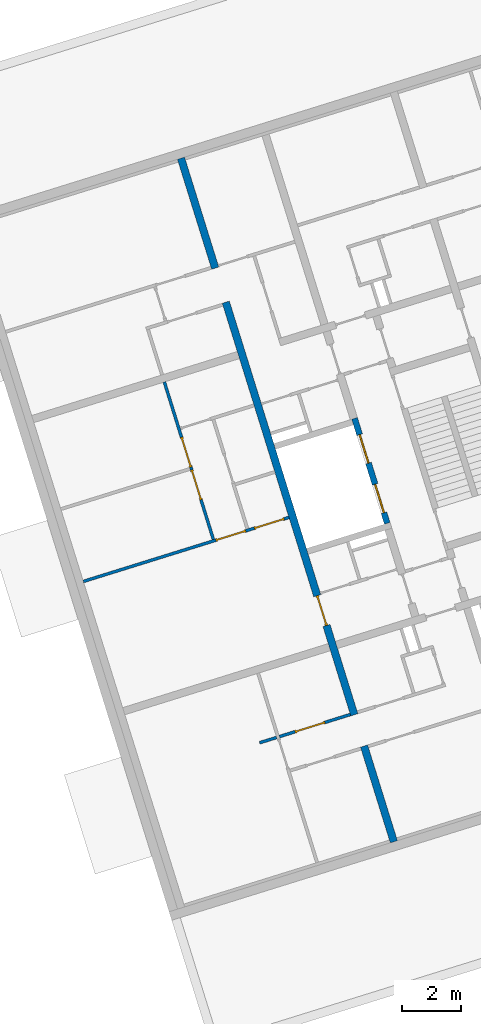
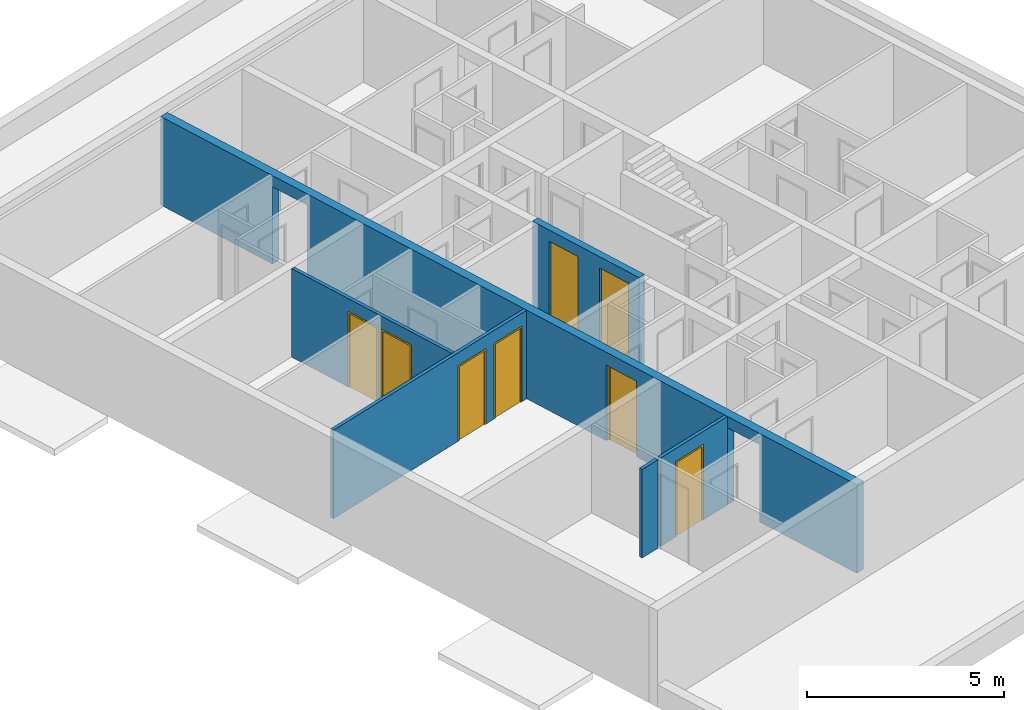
# One storey, part 8 of 9: 8 doors, 5 walls, 11 openings.
"""IFC4 building model written with IfcOpenShell, lengths in metres."""

from ifc_helpers import new_model, entity, si_unit, converted_unit, direction, frame, origin, place, context, subcontext, project, spatial, indexed_curve, outline, extrude, polygons, source, transform, mapped, material, constituent, constituent_set, type_object, type_shapes, element, fill, save


model = new_model("IFC4")

# Units and contexts
model_context = context("Model", 3, precision=1e-05, world=origin(), true_north=direction((6.12323399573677e-17, 1.0)))
body_context = subcontext(model_context, "Body", "Model", "MODEL_VIEW")
ifc_project = project(units=[si_unit("LENGTHUNIT", "METRE"), si_unit("AREAUNIT", "SQUARE_METRE"), si_unit("VOLUMEUNIT", "CUBIC_METRE"), converted_unit("PLANEANGLEUNIT", "DEGREE", entity("IfcPlaneAngleMeasure", 0.0174532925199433), si_unit("PLANEANGLEUNIT", "RADIAN"), dimensions=[0, 0, 0, 0, 0, 0, 0])], contexts=[model_context])

# Site, building, storey
site_placement = place(None, frame((13.1347999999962, 11.9886000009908, 0.0), z_axis=(0.0, 0.0, 1.0), x_axis=(0.954770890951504, 0.297342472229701, 0.0)))
site = spatial("IfcSite", under=ifc_project, at=site_placement, Name="Schiehaven", CompositionType="ELEMENT")
building_placement = place(site_placement, origin())
building = spatial("IfcBuilding", under=site, at=building_placement, Name="VORM huis", CompositionType="ELEMENT")
storey_placement = place(building_placement, frame((0.0, 0.0, 6.9)))
storey = spatial("IfcBuildingStorey", under=building, at=storey_placement, Name="02 tweede verdieping", CompositionType="ELEMENT", Elevation=6.9)

# Wall, openings, door
ifc_material_1 = material(Name="beton_gewapend_ihw", Category="Miscellaneous")
wall_type_1 = type_object("IfcWallType", Name="Basic Wall:28_WA_skelet_wand 250mm_gen", PredefinedType="STANDARD")
wall_1_placement = place(storey_placement, frame((12.5000000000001, 5.0, 0.0), z_axis=(0.0, 0.0, 1.0), x_axis=(0.0, 1.0, 0.0)))
wall_1 = element("IfcWall", 1, at=wall_1_placement, inside=storey, type_object=wall_type_1, material=ifc_material_1, Name="Constructieve wand", ObjectType="Wand", PredefinedType="NOTDEFINED", context=body_context, shape_type="Tessellation", body=[
    polygons([(8.67499999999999, -0.125, 2.34999999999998), (8.67499999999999, -0.125, 1.08286712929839e-15), (19.0250000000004, -0.124999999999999, 1.08286712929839e-15), (19.0250000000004, -0.124999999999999, 2.4), (20.2250000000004, -0.124999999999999, 2.4), (20.2250000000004, -0.124999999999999, 1.08286712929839e-15), (24.1, -0.125, 1.08286712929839e-15), (24.1, -0.125, 2.75), (7.025, -0.124999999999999, 2.75), (6.775, -0.125, 2.75), (0.0, -0.125, 2.75), (1.08286712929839e-15, -0.125, 1.08286712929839e-15), (3.37500000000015, -0.124999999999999, 1.08286712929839e-15), (3.37500000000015, -0.124999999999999, 2.4), (4.47500000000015, -0.125, 2.4), (4.47500000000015, -0.125, 1.08286712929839e-15), (6.775, -0.125, 0.0), (7.025, -0.124999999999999, 0.0), (7.62499999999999, -0.124999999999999, 1.08286712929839e-15), (7.62499999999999, -0.124999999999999, 2.34999999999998), (19.0250000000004, 0.125, 1.08286712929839e-15), (8.67499999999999, 0.125, 1.08286712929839e-15), (8.67499999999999, 0.125, 2.34999999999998), (7.62499999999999, 0.125, 2.34999999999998), (7.62499999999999, 0.125, 1.08286712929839e-15), (4.47500000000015, 0.124999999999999, 1.08286712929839e-15), (4.47500000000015, 0.124999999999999, 2.4), (3.37500000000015, 0.125000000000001, 2.4), (3.37500000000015, 0.125000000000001, 1.08286712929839e-15), (1.08286712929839e-15, 0.125, 1.08286712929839e-15), (0.0, 0.125, 2.75), (24.1, 0.124999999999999, 2.75), (24.1, 0.124999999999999, 1.08286712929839e-15), (20.2250000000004, 0.125, 1.08286712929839e-15), (20.2250000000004, 0.125, 2.4), (19.0250000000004, 0.125, 2.4)], [[[1, 2, 3, 4, 5, 6, 7, 8, 9, 10, 11, 12, 13, 14, 15, 16, 17, 18, 19, 20]], [[21, 22, 23, 24, 25, 26, 27, 28, 29, 30, 31, 32, 33, 34, 35, 36]], [[12, 30, 29, 13]], [[8, 7, 33, 32]], [[11, 10, 9, 8, 32, 31]], [[12, 11, 31, 30]], [[14, 28, 27, 15]], [[28, 14, 13, 29]], [[15, 27, 26, 16]], [[4, 36, 35, 5]], [[36, 4, 3, 21]], [[5, 35, 34, 6]], [[25, 24, 20, 19]], [[23, 22, 2, 1]], [[24, 23, 1, 20]], [[19, 18, 17, 16, 26, 25]], [[3, 2, 22, 21]], [[33, 7, 6, 34]]], closed=True),
])
opening_1_placement = place(wall_1_placement, origin())
element("IfcOpeningElement", 2, at=opening_1_placement, cuts=wall_1, Name="Constructieve wand", PredefinedType="OPENING", context=body_context, shape_type="SweptSolid", body=[
    extrude(outline(indexed_curve([(-1.2, -0.550000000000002), (1.2, -0.550000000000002), (1.2, 0.550000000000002), (-1.2, 0.550000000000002), (-1.2, -0.550000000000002)], self_intersect=False)), frame((3.92500000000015, -0.125, 1.2), z_axis=(0.0, 1.0, 0.0), x_axis=(0.0, 0.0, -1.0)), (0.0, 0.0, 1.0), 0.249999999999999),
])
opening_2_placement = place(wall_1_placement, origin())
element("IfcOpeningElement", 3, at=opening_2_placement, cuts=wall_1, Name="Constructieve wand", PredefinedType="OPENING", context=body_context, shape_type="SweptSolid", body=[
    extrude(outline(indexed_curve([(-1.2, -0.599999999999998), (1.2, -0.599999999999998), (1.2, 0.599999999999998), (-1.2, 0.599999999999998), (-1.2, -0.599999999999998)], self_intersect=False)), frame((19.6250000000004, -0.124999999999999, 1.2), z_axis=(0.0, 1.0, 0.0), x_axis=(0.0, 0.0, -1.0)), (0.0, 0.0, 1.0), 0.249999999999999),
])
opening_3_placement = place(wall_1_placement, frame((8.67499999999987, 0.124999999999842, 0.0)))
opening_3 = element("IfcOpeningElement", 4, at=opening_3_placement, cuts=wall_1, Name="Binnendeur", PredefinedType="OPENING", context=body_context, shape_type="SweptSolid", body=[
    extrude(outline(indexed_curve([(2.34999999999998, 1.05), (0.0, 1.05), (0.0, 1.08286712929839e-15), (2.34999999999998, 1.08286712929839e-15), (2.34999999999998, 1.05)], self_intersect=False)), frame((0.0, 0.0, 0.0), z_axis=(0.0, -1.0, 0.0), x_axis=(0.0, 0.0, 1.0)), (0.0, 0.0, 1.0), 0.25),
])
ifc_material_2 = material(Name="PD_a_binnenwandopeningen", Category="Miscellaneous")
ifc_constituent_1 = constituent(ifc_material_2, Name="PD_a_binnenwandopeningen", Category="Miscellaneous")
ifc_material_3 = material(Name="metaal_aluminium_ntb", Category="Miscellaneous")
ifc_constituent_2 = constituent(ifc_material_3, Name="metaal_aluminium_ntb", Category="Miscellaneous")
ifc_constituent_set_1 = constituent_set(constituents=[ifc_constituent_1, ifc_constituent_2])
door_type_1 = type_object("IfcDoorType", Name="32_DO_binnendeur enkel:binnendeur", OperationType="REVOLVING", PredefinedType="DOOR")
shared_shape_1 = source(origin(), body_context, "Body", "SweptSolid", [
    extrude(outline(indexed_curve([(-1.16249999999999, -0.525000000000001), (1.18749999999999, -0.525), (1.18749999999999, 0.525000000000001), (-1.16249999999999, 0.525000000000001), (-1.16249999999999, 0.475), (1.13749999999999, 0.475), (1.13749999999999, -0.475), (-1.16249999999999, -0.475), (-1.16249999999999, -0.525000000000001)], self_intersect=False)), frame((0.525000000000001, 0.0749999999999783, 1.16249999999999), z_axis=(0.0, 1.0, 0.0), x_axis=(0.0, 0.0, 1.0)), (0.0, 0.0, 1.0), 0.1),
    extrude(outline(indexed_curve([(-0.025, -0.475), (0.025, -0.475), (0.025, 0.475), (-0.025, 0.475), (-0.025, -0.475)], self_intersect=False)), frame((0.525000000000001, 0.12499999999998, 0.0), z_axis=(0.0, 0.0, 1.0), x_axis=(0.0, 1.0, 0.0)), (0.0, 0.0, 1.0), 2.29999999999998),
])
door_1_placement = place(opening_3_placement, frame((0.0, 0.0, 0.0), z_axis=(0.0, 0.0, 1.0), x_axis=(-1.0, 0.0, 0.0)))
door_1 = element("IfcDoor", 5, at=door_1_placement, inside=storey, type_object=door_type_1, material=ifc_constituent_set_1, Name="Binnendeur", ObjectType="Deur", OperationType="REVOLVING", OverallHeight=2.34999999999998, OverallWidth=1.05, PredefinedType="DOOR", context=body_context, shape_type="MappedRepresentation", body=[
    mapped(shared_shape_1, transform((0.0, 0.0, 0.0), scale=1.0)),
])
fill(opening_3, door_1)

# Wall, openings, doors
ifc_material_4 = material(Name="beton_gewapend_prefab-element", Category="Miscellaneous")
wall_type_2 = type_object("IfcWallType", Name="Basic Wall:28_WA_skelet_wand 200mm_gen", PredefinedType="STANDARD")
wall_2_placement = place(storey_placement, frame((15.4750000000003, 15.3, 0.0), z_axis=(0.0, 0.0, 1.0), x_axis=(0.0, 1.0, 0.0)))
wall_2 = element("IfcWall", 6, at=wall_2_placement, inside=storey, type_object=wall_type_2, material=ifc_material_4, Name="Constructieve wand", ObjectType="Wand", PredefinedType="NOTDEFINED", context=body_context, shape_type="Tessellation", body=[
    polygons([(3.7, -0.0999999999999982, 2.75), (2.16573425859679e-15, -0.0999999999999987, 2.75), (2.16573425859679e-15, -0.0999999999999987, 1.08286712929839e-15), (0.374999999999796, -0.0999999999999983, 1.08286712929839e-15), (0.374999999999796, -0.0999999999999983, 2.39999999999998), (1.3749999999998, -0.0999999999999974, 2.39999999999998), (1.3749999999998, -0.0999999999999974, 1.08286712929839e-15), (2.1249999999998, -0.100000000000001, 1.08286712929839e-15), (2.1249999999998, -0.100000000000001, 2.39999999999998), (3.1249999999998, -0.1, 2.39999999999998), (3.1249999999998, -0.1, 1.08286712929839e-15), (3.7, -0.0999999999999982, 1.08286712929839e-15), (2.16573425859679e-15, 0.100000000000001, 2.75), (3.5, 0.100000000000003, 2.75), (3.7, 0.0999999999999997, 2.75), (3.7, 0.0999999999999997, 1.08286712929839e-15), (3.5, 0.100000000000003, 0.0), (3.1249999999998, 0.100000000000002, 1.08286712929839e-15), (3.1249999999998, 0.100000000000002, 2.39999999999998), (2.1249999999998, 0.100000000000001, 2.39999999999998), (2.1249999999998, 0.100000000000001, 1.08286712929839e-15), (1.3749999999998, 0.100000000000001, 1.08286712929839e-15), (1.3749999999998, 0.100000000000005, 2.39999999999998), (0.3749999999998, 0.100000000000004, 2.39999999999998), (0.3749999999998, 0.100000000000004, 1.08286712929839e-15), (0.0, 0.100000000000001, 1.08286712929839e-15)], [[[1, 2, 3, 4, 5, 6, 7, 8, 9, 10, 11, 12]], [[13, 14, 15, 16, 17, 18, 19, 20, 21, 22, 23, 24, 25, 26]], [[4, 3, 26, 25]], [[2, 1, 15, 14, 13]], [[6, 23, 22, 7]], [[24, 5, 4, 25]], [[23, 6, 5, 24]], [[10, 19, 18, 11]], [[20, 9, 8, 21]], [[19, 10, 9, 20]], [[1, 12, 16, 15]], [[3, 2, 13, 26]], [[7, 22, 21, 8]], [[16, 12, 11, 18, 17]]], closed=True),
])
opening_4_placement = place(wall_2_placement, frame((-15.3, 15.4750000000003, 0.0), z_axis=(0.0, 0.0, 1.0), x_axis=(0.0, -1.0, 0.0)))
opening_4 = element("IfcOpeningElement", 7, at=opening_4_placement, cuts=wall_2, Name="Brandweerlift", PredefinedType="OPENING", context=body_context, shape_type="SweptSolid", body=[
    extrude(outline(indexed_curve([(-1.19999999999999, -0.499999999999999), (1.19999999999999, -0.499999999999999), (1.19999999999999, 0.500000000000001), (-1.19999999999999, 0.500000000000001), (-1.19999999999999, -0.499999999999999)], self_intersect=False)), frame((15.7436720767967, 16.1749999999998, 1.19999999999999), z_axis=(-1.0, 0.0, 0.0), x_axis=(0.0, 0.0, -1.0)), (0.0, 0.0, 1.0), 0.756310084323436),
])
opening_5_placement = place(wall_2_placement, frame((-15.3, 15.4750000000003, 0.0), z_axis=(0.0, 0.0, 1.0), x_axis=(0.0, -1.0, 0.0)))
opening_5 = element("IfcOpeningElement", 8, at=opening_5_placement, cuts=wall_2, Name="Brandweerlift", PredefinedType="OPENING", context=body_context, shape_type="SweptSolid", body=[
    extrude(outline(indexed_curve([(-1.19999999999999, -0.500000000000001), (1.19999999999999, -0.500000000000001), (1.19999999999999, 0.499999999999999), (-1.19999999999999, 0.499999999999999), (-1.19999999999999, -0.500000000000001)], self_intersect=False)), frame((15.7436720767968, 17.9249999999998, 1.19999999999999), z_axis=(-1.0, 0.0, 0.0), x_axis=(0.0, 0.0, -1.0)), (0.0, 0.0, 1.0), 0.756310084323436),
])
door_type_2 = type_object("IfcDoorType", Name="66_WI_liftdeur:brandweerlift - tweezijdig toegankelijk", OperationType="NOTDEFINED", PredefinedType="DOOR", material=ifc_material_3)
shared_shape_2 = source(origin(), body_context, "Body", "SweptSolid", [
    extrude(outline(indexed_curve([(-0.0250000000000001, -0.25), (0.0249999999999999, -0.25), (0.0250000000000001, 0.25), (-0.0249999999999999, 0.25), (-0.0250000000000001, -0.25)], self_intersect=False)), frame((0.250000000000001, 0.487638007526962, 0.0), z_axis=(0.0, 0.0, 1.0), x_axis=(0.0, 1.0, 0.0)), (0.0, 0.0, 1.0), 2.39999999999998),
    extrude(outline(indexed_curve([(-0.0250000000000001, -0.25), (0.0249999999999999, -0.25), (0.0250000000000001, 0.25), (-0.0249999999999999, 0.25), (-0.0250000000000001, -0.25)], self_intersect=False)), frame((0.750000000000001, 0.48763800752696, 0.0), z_axis=(0.0, 0.0, 1.0), x_axis=(0.0, 1.0, 0.0)), (0.0, 0.0, 1.0), 2.39999999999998),
])
type_shapes(door_type_2, [shared_shape_2])
door_2_placement = place(opening_4_placement, frame((14.9873619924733, 16.6749999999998, 0.0), z_axis=(0.0, 0.0, 1.0), x_axis=(0.0, -1.0, 0.0)))
door_2 = element("IfcDoor", 9, at=door_2_placement, inside=storey, type_object=door_type_2, material=ifc_material_3, Name="Brandweerlift", ObjectType="Transport", OperationType="NOTDEFINED", OverallHeight=2.39999999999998, OverallWidth=1.0, PredefinedType="DOOR", context=body_context, shape_type="MappedRepresentation", body=[
    mapped(shared_shape_2, transform((0.0, 0.0, 0.0), scale=1.0)),
])
fill(opening_4, door_2)
door_3_placement = place(opening_5_placement, frame((14.9873619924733, 18.4249999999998, 0.0), z_axis=(0.0, 0.0, 1.0), x_axis=(0.0, -1.0, 0.0)))
door_3 = element("IfcDoor", 10, at=door_3_placement, inside=storey, type_object=door_type_2, material=ifc_material_3, Name="Brandweerlift", ObjectType="Transport", OperationType="NOTDEFINED", OverallHeight=2.39999999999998, OverallWidth=1.0, PredefinedType="DOOR", context=body_context, shape_type="MappedRepresentation", body=[
    mapped(shared_shape_2, transform((0.0, 0.0, 0.0), scale=1.0)),
])
fill(opening_5, door_3)

# Wall, openings, door
ifc_material_5 = material(Name="ntb_ntb_ntb", Category="Miscellaneous")
wall_type_3 = type_object("IfcWallType", Name="Basic Wall:22_WA_afbouw_binnenwand 100mm_gen", PredefinedType="STANDARD")
wall_3_placement = place(storey_placement, frame((12.3750000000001, 9.52499999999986, 0.0), z_axis=(0.0, 0.0, 1.0), x_axis=(-1.0, 0.0, 0.0)))
wall_3 = element("IfcWall", 11, at=wall_3_placement, inside=storey, type_object=wall_type_3, material=ifc_material_5, Name="Binnenwand", ObjectType="Wand", PredefinedType="NOTDEFINED", context=body_context, shape_type="Tessellation", body=[
    polygons([(-2.22976765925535e-15, -0.0500000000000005, 2.75), (-2.22976765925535e-15, -0.0500000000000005, 1.08286712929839e-15), (0.899999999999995, -0.0500000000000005, 1.08286712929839e-15), (0.899999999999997, -0.0500000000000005, 2.34999999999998), (1.95, -0.0500000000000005, 2.34999999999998), (1.95, -0.0500000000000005, 1.08286712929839e-15), (2.50000000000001, -0.0500000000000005, 1.08286712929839e-15), (2.50000000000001, -0.0500000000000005, 2.75), (-2.09904175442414e-15, 0.0499999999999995, 1.08286712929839e-15), (0.899999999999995, 0.0499999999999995, 1.08286712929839e-15), (-2.09904175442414e-15, 0.0499999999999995, 2.75), (1.95, 0.0499999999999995, 2.34999999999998), (1.95, 0.0499999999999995, 1.08286712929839e-15), (0.899999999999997, 0.0499999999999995, 2.34999999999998), (2.50000000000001, 0.0499999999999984, 1.08286712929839e-15), (2.50000000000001, 0.0499999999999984, 2.75)], [[[1, 2, 3, 4, 5, 6, 7, 8]], [[2, 9, 10, 3]], [[2, 1, 11, 9]], [[6, 5, 12, 13]], [[4, 3, 10, 14]], [[5, 4, 14, 12]], [[8, 7, 15, 16]], [[11, 1, 8, 16]], [[6, 13, 15, 7]], [[9, 11, 16, 15, 13, 12, 14, 10]]], closed=True),
    polygons([(3.2, 0.0500000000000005, 2.75), (3.2, 0.0500000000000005, 1.08286712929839e-15), (2.60000000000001, 0.0499999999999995, 1.08286712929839e-15), (2.60000000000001, 0.0499999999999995, 2.75), (3.2, -0.0499999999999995, 2.75), (3.2, -0.0499999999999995, 1.08286712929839e-15), (2.60000000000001, -0.0500000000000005, 2.75), (2.60000000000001, -0.0500000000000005, 1.08286712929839e-15)], [[[1, 2, 3, 4]], [[5, 6, 2, 1]], [[5, 1, 4, 7]], [[8, 7, 4, 3]], [[2, 6, 8, 3]], [[6, 5, 7, 8]]], closed=True),
])
opening_6_placement = place(storey_placement, frame((12.3750000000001, 9.52499999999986, 0.0), z_axis=(0.0, 0.0, 1.0), x_axis=(-1.0, 0.0, 0.0)))
element("IfcOpeningElement", 12, at=opening_6_placement, cuts=wall_3, Name="Binnenwand:1", PredefinedType="OPENING", context=body_context, shape_type="SweptSolid", body=[
    extrude(outline(indexed_curve([(-1.375, -0.0499999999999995), (1.375, -0.0499999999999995), (1.375, 0.0500000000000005), (-1.375, 0.0500000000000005), (-1.375, -0.0499999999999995)], self_intersect=False)), frame((2.60000000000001, 0.0, 1.375), z_axis=(-1.0, 0.0, 0.0), x_axis=(0.0, 0.0, 1.0)), (0.0, 0.0, 1.0), 0.100000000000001),
])
opening_7_placement = place(wall_3_placement, frame((0.899999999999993, -0.0500000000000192, 0.0)))
opening_7 = element("IfcOpeningElement", 13, at=opening_7_placement, cuts=wall_3, Name="Binnendeur", PredefinedType="OPENING", context=body_context, shape_type="SweptSolid", body=[
    extrude(outline(indexed_curve([(2.34999999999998, 1.05), (0.0, 1.05), (0.0, 1.35358391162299e-15), (2.34999999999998, 1.35358391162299e-15), (2.34999999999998, 1.05)], self_intersect=False)), frame((0.0, 0.0, 0.0), z_axis=(0.0, 1.0, 0.0), x_axis=(0.0, 0.0, 1.0)), (0.0, 0.0, 1.0), 0.1),
])
ifc_constituent_3 = constituent(ifc_material_2, Name="PD_a_binnenwandopeningen", Category="Miscellaneous")
ifc_constituent_4 = constituent(ifc_material_3, Name="metaal_aluminium_ntb", Category="Miscellaneous")
ifc_constituent_set_2 = constituent_set(constituents=[ifc_constituent_3, ifc_constituent_4])
shared_shape_3 = source(origin(), body_context, "Body", "SweptSolid", [
    extrude(outline(indexed_curve([(-1.16249999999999, -0.525000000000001), (1.18749999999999, -0.525), (1.18749999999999, 0.525), (-1.16249999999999, 0.525), (-1.16249999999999, 0.475), (1.13749999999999, 0.475), (1.13749999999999, -0.475), (-1.16249999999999, -0.475), (-1.16249999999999, -0.525000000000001)], self_intersect=False)), frame((0.525000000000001, 0.0, 1.16249999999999), z_axis=(0.0, 1.0, 0.0), x_axis=(0.0, 0.0, 1.0)), (0.0, 0.0, 1.0), 0.1),
    extrude(outline(indexed_curve([(-0.025, -0.475), (0.025, -0.475), (0.025, 0.475), (-0.025, 0.475), (-0.025, -0.475)], self_intersect=False)), frame((0.525000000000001, 0.0499999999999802, 0.0), z_axis=(0.0, 0.0, 1.0), x_axis=(0.0, 1.0, 0.0)), (0.0, 0.0, 1.0), 2.29999999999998),
])
type_shapes(door_type_1, [shared_shape_3])
door_4_placement = place(opening_7_placement, origin())
door_4 = element("IfcDoor", 14, at=door_4_placement, inside=storey, type_object=door_type_1, material=ifc_constituent_set_2, Name="Binnendeur", ObjectType="Deur", OperationType="REVOLVING", OverallHeight=2.34999999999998, OverallWidth=1.05, PredefinedType="DOOR", context=body_context, shape_type="MappedRepresentation", body=[
    mapped(shared_shape_3, transform((0.0, 0.0, 0.0), scale=1.0)),
])
fill(opening_7, door_4)

# Wall, openings, doors
wall_4_placement = place(storey_placement, frame((12.3771642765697, 16.475, 0.0), z_axis=(0.0, 0.0, 1.0), x_axis=(-1.0, 0.0, 0.0)))
wall_4 = element("IfcWall", 15, at=wall_4_placement, inside=storey, type_object=wall_type_3, material=ifc_material_5, Name="Binnenwand", ObjectType="Wand", PredefinedType="NOTDEFINED", context=body_context, shape_type="Tessellation", body=[
    polygons([(2.66089944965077e-16, -0.0500000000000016, 1.08286712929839e-15), (0.176082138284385, -0.0499999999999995, 1.08286712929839e-15), (0.176082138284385, -0.0499999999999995, 2.34999999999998), (1.22608213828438, -0.0499999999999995, 2.34999999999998), (1.22608213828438, -0.0499999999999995, 1.08286712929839e-15), (1.40216427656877, -0.0499999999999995, 0.0), (1.50216427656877, -0.0499999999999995, 0.0), (1.52716427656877, -0.0499999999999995, 1.08286712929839e-15), (1.52716427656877, -0.0499999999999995, 2.34999999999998), (2.57716427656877, -0.0499999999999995, 2.34999999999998), (2.57716427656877, -0.0499999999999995, 1.08286712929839e-15), (2.60216427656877, -0.0500000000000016, 0.0), (2.70216427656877, -0.0499999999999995, 0.0), (7.25216427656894, -0.0500000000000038, 1.08286712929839e-15), (7.25216427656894, -0.0500000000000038, 2.75), (2.70216427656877, -0.0499999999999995, 2.75), (2.60216427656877, -0.0500000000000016, 2.75), (1.50216427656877, -0.0499999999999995, 2.75), (1.40216427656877, -0.0499999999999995, 2.75), (2.66089944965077e-16, -0.0500000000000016, 2.75), (0.176082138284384, 0.0500000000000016, 2.34999999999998), (0.176082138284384, 0.0500000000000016, 1.08286712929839e-15), (-3.90810526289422e-16, 0.0499999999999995, 1.08286712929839e-15), (-3.90810526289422e-16, 0.0499999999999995, 2.75), (7.25216427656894, 0.0499999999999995, 2.75), (7.25216427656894, 0.0499999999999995, 1.08286712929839e-15), (2.57716427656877, 0.0500000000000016, 1.08286712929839e-15), (2.57716427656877, 0.0500000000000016, 2.34999999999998), (1.52716427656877, 0.0500000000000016, 2.34999999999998), (1.52716427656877, 0.0500000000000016, 1.08286712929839e-15), (1.22608213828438, 0.0500000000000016, 1.08286712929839e-15), (1.22608213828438, 0.0500000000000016, 2.34999999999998)], [[[1, 2, 3, 4, 5, 6, 7, 8, 9, 10, 11, 12, 13, 14, 15, 16, 17, 18, 19, 20]], [[21, 22, 23, 24, 25, 26, 27, 28, 29, 30, 31, 32]], [[23, 22, 2, 1]], [[15, 14, 26, 25]], [[20, 19, 18, 17, 16, 15, 25, 24]], [[1, 20, 24, 23]], [[11, 10, 28, 27]], [[9, 8, 30, 29]], [[10, 9, 29, 28]], [[5, 4, 32, 31]], [[3, 2, 22, 21]], [[4, 3, 21, 32]], [[31, 30, 8, 7, 6, 5]], [[27, 26, 14, 13, 12, 11]]], closed=True),
])
opening_8_placement = place(wall_4_placement, frame((1.52716427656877, -0.0500000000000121, 0.0)))
opening_8 = element("IfcOpeningElement", 16, at=opening_8_placement, cuts=wall_4, Name="Binnendeur", PredefinedType="OPENING", context=body_context, shape_type="SweptSolid", body=[
    extrude(outline(indexed_curve([(2.34999999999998, 1.05), (0.0, 1.05), (0.0, 1.35358391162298e-15), (2.34999999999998, 1.35358391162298e-15), (2.34999999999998, 1.05)], self_intersect=False)), frame((0.0, 0.0, 0.0), z_axis=(0.0, 1.0, 0.0), x_axis=(0.0, 0.0, 1.0)), (0.0, 0.0, 1.0), 0.1),
])
opening_9_placement = place(wall_4_placement, frame((0.176082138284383, -0.0500000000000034, 0.0)))
opening_9 = element("IfcOpeningElement", 17, at=opening_9_placement, cuts=wall_4, Name="Binnendeur", PredefinedType="OPENING", context=body_context, shape_type="SweptSolid", body=[
    extrude(outline(indexed_curve([(2.34999999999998, 1.05), (0.0, 1.05), (0.0, 1.35358391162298e-15), (2.34999999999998, 1.35358391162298e-15), (2.34999999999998, 1.05)], self_intersect=False)), frame((0.0, 0.0, 0.0), z_axis=(0.0, 1.0, 0.0), x_axis=(0.0, 0.0, 1.0)), (0.0, 0.0, 1.0), 0.1),
])
ifc_constituent_5 = constituent(ifc_material_2, Name="PD_a_binnenwandopeningen", Category="Miscellaneous")
ifc_constituent_6 = constituent(ifc_material_3, Name="metaal_aluminium_ntb", Category="Miscellaneous")
ifc_constituent_set_3 = constituent_set(constituents=[ifc_constituent_5, ifc_constituent_6])
door_5_placement = place(opening_8_placement, origin())
door_5 = element("IfcDoor", 18, at=door_5_placement, inside=storey, type_object=door_type_1, material=ifc_constituent_set_3, Name="Binnendeur", ObjectType="Deur", OperationType="REVOLVING", OverallHeight=2.34999999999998, OverallWidth=1.05, PredefinedType="DOOR", context=body_context, shape_type="MappedRepresentation", body=[
    mapped(shared_shape_3, transform((0.0, 0.0, 0.0), scale=1.0)),
])
fill(opening_8, door_5)
ifc_constituent_7 = constituent(ifc_material_2, Name="PD_a_binnenwandopeningen", Category="Miscellaneous")
ifc_constituent_8 = constituent(ifc_material_3, Name="metaal_aluminium_ntb", Category="Miscellaneous")
ifc_constituent_set_4 = constituent_set(constituents=[ifc_constituent_7, ifc_constituent_8])
door_6_placement = place(opening_9_placement, origin())
door_6 = element("IfcDoor", 19, at=door_6_placement, inside=storey, type_object=door_type_1, material=ifc_constituent_set_4, Name="Binnendeur", ObjectType="Deur", OperationType="REVOLVING", OverallHeight=2.34999999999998, OverallWidth=1.05, PredefinedType="DOOR", context=body_context, shape_type="MappedRepresentation", body=[
    mapped(shared_shape_3, transform((0.0, 0.0, 0.0), scale=1.0)),
])
fill(opening_9, door_6)

wall_5_placement = place(storey_placement, frame((9.72500000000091, 22.0750000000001, 0.0), z_axis=(0.0, 0.0, 1.0), x_axis=(0.0, -1.0, 0.0)))
wall_5 = element("IfcWall", 20, at=wall_5_placement, inside=storey, type_object=wall_type_3, material=ifc_material_5, Name="Binnenwand", ObjectType="Wand", PredefinedType="NOTDEFINED", context=body_context, shape_type="Tessellation", body=[
    polygons([(3.00000000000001, -0.049999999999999, 1.08286712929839e-15), (3.10000000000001, -0.0499999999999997, 1.08286712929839e-15), (3.10000000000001, -0.0499999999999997, 2.34999999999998), (4.15000000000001, -0.0499999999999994, 2.34999999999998), (4.15000000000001, -0.0499999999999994, 1.08286712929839e-15), (5.55000000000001, -0.0499999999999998, 1.08286712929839e-15), (5.55000000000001, -0.0499999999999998, 2.75), (3.10000000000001, -0.0499999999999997, 2.75), (3.00000000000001, -0.049999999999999, 2.75), (0.0, -0.0499999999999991, 2.75), (0.0, -0.0499999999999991, 1.08286712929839e-15), (1.95000000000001, -0.0499999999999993, 1.08286712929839e-15), (1.95000000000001, -0.0499999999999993, 2.34999999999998), (3.00000000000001, -0.049999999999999, 2.34999999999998), (3.10000000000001, 0.0500000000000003, 2.34999999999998), (3.10000000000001, 0.0500000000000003, 1.08286712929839e-15), (3.00000000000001, 0.0499999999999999, 1.08286712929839e-15), (3.00000000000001, 0.0499999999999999, 2.34999999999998), (1.95000000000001, 0.0499999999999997, 2.34999999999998), (1.95000000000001, 0.0499999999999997, 1.08286712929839e-15), (1.70000000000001, 0.0500000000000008, 0.0), (1.60000000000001, 0.0500000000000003, 0.0), (0.0, 0.0499999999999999, 1.08286712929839e-15), (0.0, 0.0499999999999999, 2.75), (1.60000000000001, 0.0500000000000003, 2.75), (1.70000000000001, 0.0500000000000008, 2.75), (5.55000000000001, 0.0500000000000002, 2.75), (5.55000000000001, 0.0500000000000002, 1.08286712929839e-15), (4.15000000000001, 0.0500000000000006, 1.08286712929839e-15), (4.15000000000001, 0.0500000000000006, 2.34999999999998)], [[[1, 2, 3, 4, 5, 6, 7, 8, 9, 10, 11, 12, 13, 14]], [[15, 16, 17, 18, 19, 20, 21, 22, 23, 24, 25, 26, 27, 28, 29, 30]], [[11, 23, 22, 21, 20, 12]], [[10, 9, 8, 7, 27, 26, 25, 24]], [[11, 10, 24, 23]], [[14, 18, 17, 1]], [[19, 13, 12, 20]], [[18, 14, 13, 19]], [[7, 6, 28, 27]], [[5, 4, 30, 29]], [[3, 2, 16, 15]], [[4, 3, 15, 30]], [[17, 16, 2, 1]], [[29, 28, 6, 5]]], closed=True),
])
opening_10_placement = place(wall_5_placement, frame((1.95, -0.0500000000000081, 0.0)))
opening_10 = element("IfcOpeningElement", 21, at=opening_10_placement, cuts=wall_5, Name="Binnendeur", PredefinedType="OPENING", context=body_context, shape_type="SweptSolid", body=[
    extrude(outline(indexed_curve([(2.34999999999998, 1.05), (0.0, 1.05), (0.0, 0.0), (2.34999999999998, 0.0), (2.34999999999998, 1.05)], self_intersect=False)), frame((0.0, 0.0, 0.0), z_axis=(0.0, 1.0, 0.0), x_axis=(0.0, 0.0, 1.0)), (0.0, 0.0, 1.0), 0.1),
])
opening_11_placement = place(wall_5_placement, frame((3.1, -0.0500000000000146, 0.0)))
opening_11 = element("IfcOpeningElement", 22, at=opening_11_placement, cuts=wall_5, Name="Binnendeur", PredefinedType="OPENING", context=body_context, shape_type="SweptSolid", body=[
    extrude(outline(indexed_curve([(2.34999999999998, 1.05), (0.0, 1.05), (0.0, 1.08286712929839e-15), (2.34999999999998, 1.08286712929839e-15), (2.34999999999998, 1.05)], self_intersect=False)), frame((0.0, 0.0, 0.0), z_axis=(0.0, 1.0, 0.0), x_axis=(0.0, 0.0, 1.0)), (0.0, 0.0, 1.0), 0.1),
])
ifc_constituent_9 = constituent(ifc_material_2, Name="PD_a_binnenwandopeningen", Category="Miscellaneous")
ifc_constituent_10 = constituent(ifc_material_3, Name="metaal_aluminium_ntb", Category="Miscellaneous")
ifc_constituent_set_5 = constituent_set(constituents=[ifc_constituent_9, ifc_constituent_10])
door_7_placement = place(opening_10_placement, origin())
door_7 = element("IfcDoor", 23, at=door_7_placement, inside=storey, type_object=door_type_1, material=ifc_constituent_set_5, Name="Binnendeur", ObjectType="Deur", OperationType="REVOLVING", OverallHeight=2.34999999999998, OverallWidth=1.05, PredefinedType="DOOR", context=body_context, shape_type="MappedRepresentation", body=[
    mapped(shared_shape_3, transform((0.0, 0.0, 0.0), scale=1.0)),
])
fill(opening_10, door_7)
ifc_constituent_11 = constituent(ifc_material_2, Name="PD_a_binnenwandopeningen", Category="Miscellaneous")
ifc_constituent_12 = constituent(ifc_material_3, Name="metaal_aluminium_ntb", Category="Miscellaneous")
ifc_constituent_set_6 = constituent_set(constituents=[ifc_constituent_11, ifc_constituent_12])
door_8_placement = place(opening_11_placement, origin())
door_8 = element("IfcDoor", 24, at=door_8_placement, inside=storey, type_object=door_type_1, material=ifc_constituent_set_6, Name="Binnendeur", ObjectType="Deur", OperationType="REVOLVING", OverallHeight=2.34999999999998, OverallWidth=1.05, PredefinedType="DOOR", context=body_context, shape_type="MappedRepresentation", body=[
    mapped(shared_shape_3, transform((0.0, 0.0, 0.0), scale=1.0)),
])
fill(opening_11, door_8)

save(model, "model.ifc")
